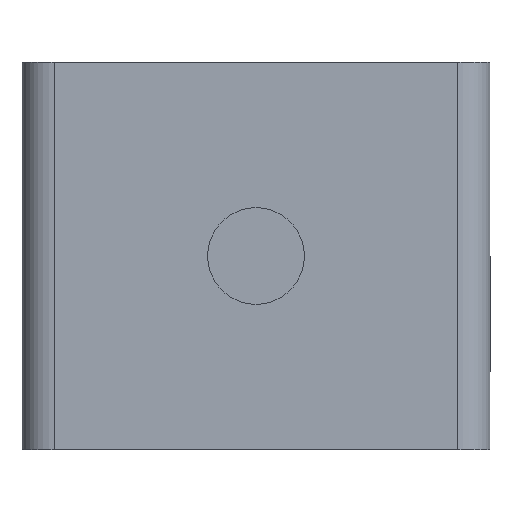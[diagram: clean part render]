
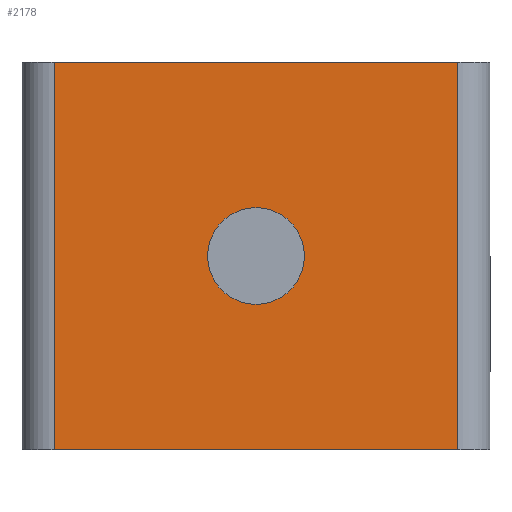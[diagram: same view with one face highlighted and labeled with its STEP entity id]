
A CAD part, front view. The second image highlights one B-rep face of the part: STEP entity #2178.
In plain terms, the highlighted planar face has unit normal (0, -1, 0).
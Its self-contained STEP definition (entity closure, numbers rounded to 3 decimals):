
#108 = DIRECTION ( 'NONE',  ( 1., 0., 0. ) ) ;
#226 = DIRECTION ( 'NONE',  ( 0., 1., 0. ) ) ;
#276 = ORIENTED_EDGE ( 'NONE', *, *, #1299, .T. ) ;
#492 = VERTEX_POINT ( 'NONE', #1499 ) ;
#635 = DIRECTION ( 'NONE',  ( 0., 0., 1. ) ) ;
#698 = ORIENTED_EDGE ( 'NONE', *, *, #1603, .F. ) ;
#792 = EDGE_LOOP ( 'NONE', ( #2292, #276 ) ) ;
#858 = EDGE_CURVE ( 'NONE', #2164, #3200, #2397, .T. ) ;
#859 = DIRECTION ( 'NONE',  ( 0., 1., 0. ) ) ;
#899 = CIRCLE ( 'NONE', #2700, 3. ) ;
#972 = CARTESIAN_POINT ( 'NONE',  ( 12.5, -26.9, -24. ) ) ;
#1133 = EDGE_CURVE ( 'NONE', #2776, #4435, #2393, .T. ) ;
#1159 = LINE ( 'NONE', #3730, #3061 ) ;
#1227 = FACE_OUTER_BOUND ( 'NONE', #2076, .T. ) ;
#1261 = DIRECTION ( 'NONE',  ( 0., 0., 1. ) ) ;
#1299 = EDGE_CURVE ( 'NONE', #492, #3667, #1728, .T. ) ;
#1499 = CARTESIAN_POINT ( 'NONE',  ( 0., -26.9, -15. ) ) ;
#1603 = EDGE_CURVE ( 'NONE', #4435, #2164, #1686, .T. ) ;
#1686 = LINE ( 'NONE', #2219, #2728 ) ;
#1728 = CIRCLE ( 'NONE', #2286, 3. ) ;
#1846 = CARTESIAN_POINT ( 'NONE',  ( 0., -26.9, -9. ) ) ;
#2050 = VECTOR ( 'NONE', #4050, 1000. ) ;
#2076 = EDGE_LOOP ( 'NONE', ( #4475, #2081, #698, #3644 ) ) ;
#2081 = ORIENTED_EDGE ( 'NONE', *, *, #858, .F. ) ;
#2104 = CARTESIAN_POINT ( 'NONE',  ( 12.5, -26.9, 0. ) ) ;
#2164 = VERTEX_POINT ( 'NONE', #972 ) ;
#2178 = ADVANCED_FACE ( 'NONE', ( #3206, #1227 ), #2401, .F. ) ;
#2219 = CARTESIAN_POINT ( 'NONE',  ( 12.5, -26.9, -12. ) ) ;
#2244 = CARTESIAN_POINT ( 'NONE',  ( 0., -26.9, 0. ) ) ;
#2286 = AXIS2_PLACEMENT_3D ( 'NONE', #2359, #226, #2721 ) ;
#2292 = ORIENTED_EDGE ( 'NONE', *, *, #2822, .T. ) ;
#2310 = CARTESIAN_POINT ( 'NONE',  ( 0., -26.9, -24. ) ) ;
#2359 = CARTESIAN_POINT ( 'NONE',  ( 0., -26.9, -12. ) ) ;
#2393 = LINE ( 'NONE', #2244, #3341 ) ;
#2397 = LINE ( 'NONE', #2310, #2050 ) ;
#2401 = PLANE ( 'NONE',  #2778 ) ;
#2498 = CARTESIAN_POINT ( 'NONE',  ( -12.5, -26.9, -24. ) ) ;
#2505 = EDGE_CURVE ( 'NONE', #3200, #2776, #1159, .T. ) ;
#2700 = AXIS2_PLACEMENT_3D ( 'NONE', #2972, #859, #3330 ) ;
#2721 = DIRECTION ( 'NONE',  ( 0., 0., 1. ) ) ;
#2728 = VECTOR ( 'NONE', #2913, 1000. ) ;
#2753 = DIRECTION ( 'NONE',  ( 0., 1., 0. ) ) ;
#2776 = VERTEX_POINT ( 'NONE', #3994 ) ;
#2778 = AXIS2_PLACEMENT_3D ( 'NONE', #3793, #2753, #635 ) ;
#2822 = EDGE_CURVE ( 'NONE', #3667, #492, #899, .T. ) ;
#2913 = DIRECTION ( 'NONE',  ( 0., 0., -1. ) ) ;
#2972 = CARTESIAN_POINT ( 'NONE',  ( 0., -26.9, -12. ) ) ;
#3061 = VECTOR ( 'NONE', #1261, 1000. ) ;
#3200 = VERTEX_POINT ( 'NONE', #2498 ) ;
#3206 = FACE_BOUND ( 'NONE', #792, .T. ) ;
#3330 = DIRECTION ( 'NONE',  ( 0., 0., 1. ) ) ;
#3341 = VECTOR ( 'NONE', #108, 1000. ) ;
#3644 = ORIENTED_EDGE ( 'NONE', *, *, #1133, .F. ) ;
#3667 = VERTEX_POINT ( 'NONE', #1846 ) ;
#3730 = CARTESIAN_POINT ( 'NONE',  ( -12.5, -26.9, -12. ) ) ;
#3793 = CARTESIAN_POINT ( 'NONE',  ( -12.5, -26.9, -24. ) ) ;
#3994 = CARTESIAN_POINT ( 'NONE',  ( -12.5, -26.9, 0. ) ) ;
#4050 = DIRECTION ( 'NONE',  ( -1., 0., 0. ) ) ;
#4435 = VERTEX_POINT ( 'NONE', #2104 ) ;
#4475 = ORIENTED_EDGE ( 'NONE', *, *, #2505, .F. ) ;
